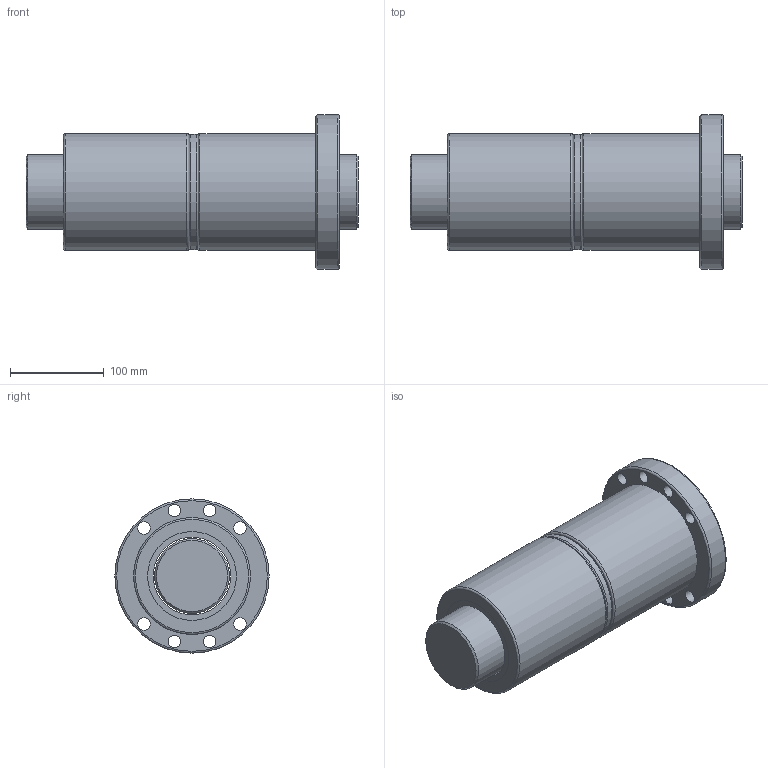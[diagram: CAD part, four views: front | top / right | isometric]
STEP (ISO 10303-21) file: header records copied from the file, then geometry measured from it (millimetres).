
FILE_DESCRIPTION(/* description */ (''),/* implementation_level */ '2;1');
FILE_NAME(/* name */ 'DFU8020',/* time_stamp */ '2007-10-26T11:02:20+08:00',/* author */ (''),/* organization */ (''),/* preprocessor_version */ 'ST-DEVELOPER v9',/* originating_system */ 'EDS PLM SOLUTIONS - UNIGRAPHICS NX 1.0',/* authorisation */ '');
FILE_SCHEMA (('CONFIG_CONTROL_DESIGN'));
Length unit declared in the file: millimetre
Products named in the file (1): FANNDA0400d9
Bounding box: 355 x 165 x 165 mm (x, y, z)
Volume: 4000195.8 mm3; surface area: 375395 mm2
Topology: 6 solids, 6 shells, 46 faces, 91 edges, 60 vertices
Faces by surface type: cylinder 22, plane 15, torus 7, cone 2
Full cylindrical faces by diameter (mm): 13.5 x8, 80 x1, 83 x5, 95 x4, 123 x1, 125 x2, 165 x1
Entity records: 1122 total; most frequent: DIRECTION 200, CARTESIAN_POINT 153, EDGE_LOOP 106, ORIENTED_EDGE 106, AXIS2_PLACEMENT_3D 100, FACE_BOUND 89, VERTEX_POINT 53, EDGE_CURVE 53
